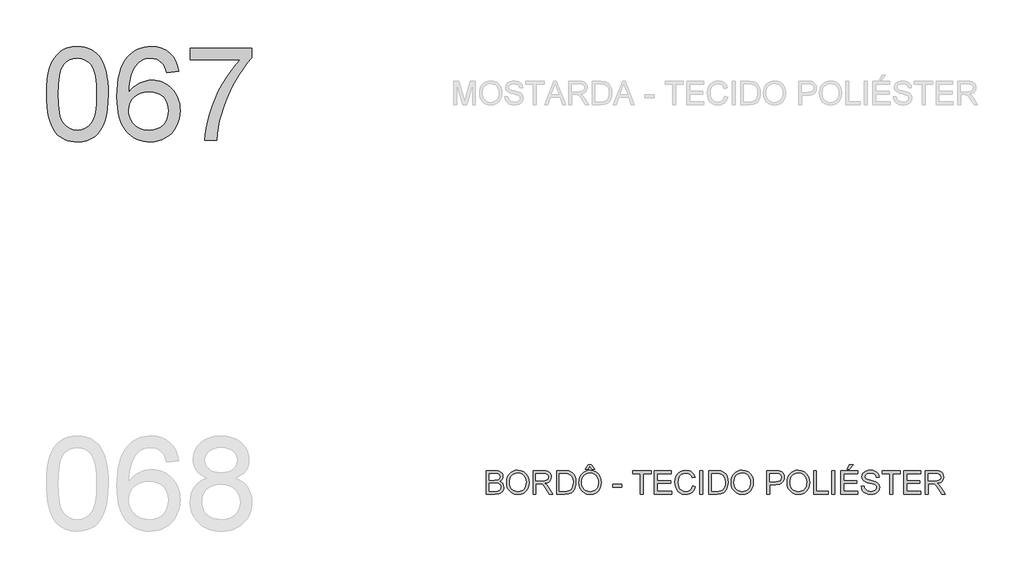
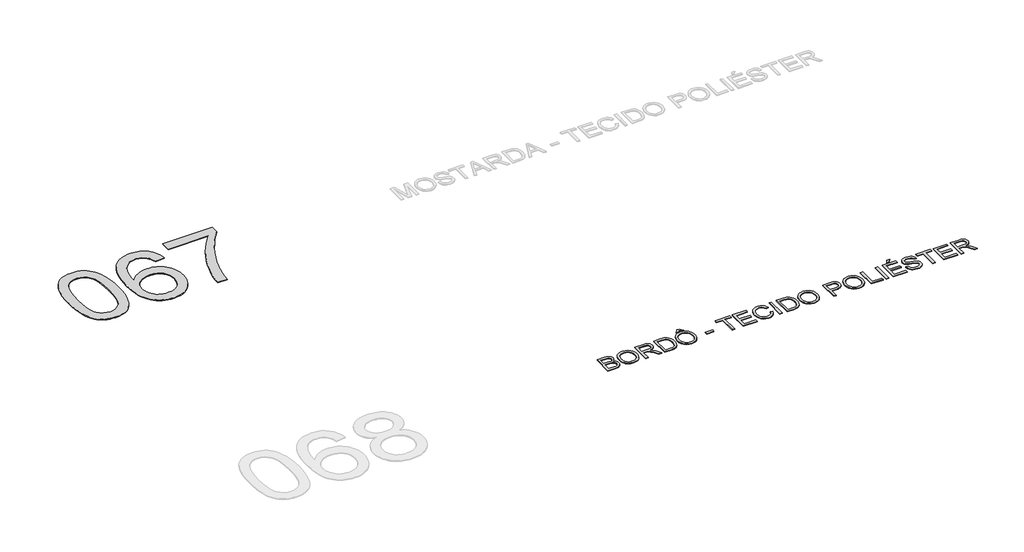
# One storey, part 7 of 67: 2 proxies.
"""IFC4 building model written with IfcOpenShell, lengths in millimetres."""

import ifcopenshell
import ifcopenshell.guid

model = None  # the IFC model being written
_history = None  # IfcOwnerHistory: only IFC2X3 demands one
_inside = {}  # id of a spatial element -> (the spatial element, [elements in it])
_under = {}  # id of a project, library or spatial element -> (it, [spatial elements below it])
_declared = {}  # id of a project -> (the project, [libraries it declares])
_typed = {}  # id of a type object -> (the type object, [elements of that type])
_made_of = {}  # id of a material, layer set ... -> (it, [elements and type objects made of it])


def new_model(schema):
    """Start an empty IFC model of exactly this schema.

    Asked for "IFC4X3", IfcOpenShell would pick the latest addendum, in which some entities
    have other attributes; the version numbers below select the first issue.
    IFC2X3 requires an IfcOwnerHistory on every rooted entity: one is made here for all.
    """
    global model, _history
    if schema == "IFC4X3":
        model = ifcopenshell.file(schema_version=(4, 3, 0, 0))
    else:
        model = ifcopenshell.file(schema=schema)
    _inside.clear()
    _under.clear()
    _declared.clear()
    _typed.clear()
    _made_of.clear()
    _history = None
    if model.schema == "IFC2X3":
        org = make("IfcOrganization", Name="unknown")
        user = make(
            "IfcPersonAndOrganization",
            ThePerson=make("IfcPerson", FamilyName="unknown"),
            TheOrganization=org,
        )
        app = make(
            "IfcApplication",
            ApplicationDeveloper=org,
            Version="unknown",
            ApplicationFullName="unknown",
            ApplicationIdentifier="unknown",
        )
        _history = make(
            "IfcOwnerHistory",
            OwningUser=user,
            OwningApplication=app,
            ChangeAction="ADDED",
            CreationDate=0,
        )
    return model


def make(cls, **values):
    """One entity of the class cls with the attributes given. An attribute that is None is left unset."""
    return model.create_entity(
        cls, **{name: value for name, value in values.items() if value is not None}
    )


def rooted(cls, **values):
    """An entity with a GlobalId (a new one), such as an element, a storey or a relation."""
    return make(cls, GlobalId=ifcopenshell.guid.new(), OwnerHistory=_history, **values)


def si_unit(unit_type, name, prefix=None):
    """IfcSIUnit, for example si_unit("LENGTHUNIT", "METRE", prefix="MILLI")."""
    return make("IfcSIUnit", UnitType=unit_type, Prefix=prefix, Name=name)


def assignment(units):
    """IfcUnitAssignment: the units of a project."""
    return None if units is None else make("IfcUnitAssignment", Units=units)


def point(xyz):
    """IfcCartesianPoint."""
    return None if xyz is None else make("IfcCartesianPoint", Coordinates=xyz)


def direction(xyz):
    """IfcDirection."""
    return None if xyz is None else make("IfcDirection", DirectionRatios=xyz)


def frame(location, z_axis=None, x_axis=None):
    """IfcAxis2Placement3D, a coordinate frame: its origin and axes. An axis left out is left unset."""
    return make(
        "IfcAxis2Placement3D",
        Location=point(location),
        Axis=direction(z_axis),
        RefDirection=direction(x_axis),
    )


def origin():
    """The frame at (0, 0, 0) with its axes left unset."""
    return frame((0.0, 0.0, 0.0))


def origin_with_axes():
    """The frame at (0, 0, 0) with the z axis (0, 0, 1) and the x axis (1, 0, 0) written out."""
    return frame((0.0, 0.0, 0.0), z_axis=(0.0, 0.0, 1.0), x_axis=(1.0, 0.0, 0.0))


def place(relative_to, where):
    """IfcLocalPlacement: puts the frame where relative to a parent placement (None: the world)."""
    return make(
        "IfcLocalPlacement", PlacementRelTo=relative_to, RelativePlacement=where
    )


def context(
    kind, dimensions, precision=None, world=None, true_north=None, identifier=None
):
    """IfcGeometricRepresentationContext, for example the 3D "Model" context."""
    return make(
        "IfcGeometricRepresentationContext",
        ContextIdentifier=identifier,
        ContextType=kind,
        CoordinateSpaceDimension=dimensions,
        Precision=precision,
        WorldCoordinateSystem=world,
        TrueNorth=true_north,
    )


def project(units=None, contexts=None):
    """IfcProject with its units and contexts."""
    return rooted(
        "IfcProject",
        Name="project",
        RepresentationContexts=contexts,
        UnitsInContext=assignment(units),
    )


def spatial(cls, under=None, at=None, **own):
    """A site, building, storey or space (cls), placed at a placement, below another one or the project."""
    s = rooted(cls, ObjectPlacement=at, **own)
    if under is not None:
        _under.setdefault(under.id(), (under, []))[1].append(s)
    return s


def polyline(points):
    """IfcPolyline through the points."""
    return make("IfcPolyline", Points=[point(p) for p in points])


def outline(outer, holes=None, kind="AREA"):
    """IfcArbitraryClosedProfileDef: a profile drawn as a closed curve; with holes, ...WithVoids."""
    if holes is None:
        return make("IfcArbitraryClosedProfileDef", ProfileType=kind, OuterCurve=outer)
    return make(
        "IfcArbitraryProfileDefWithVoids",
        ProfileType=kind,
        OuterCurve=outer,
        InnerCurves=holes,
    )


def extrude(swept, where, along, depth):
    """IfcExtrudedAreaSolid: the profile swept, set in the frame where, extruded along a direction by depth."""
    return make(
        "IfcExtrudedAreaSolid",
        SweptArea=swept,
        Position=where,
        ExtrudedDirection=direction(along),
        Depth=depth,
    )


def shape(context_of_items, identifier, shape_type, items):
    """IfcShapeRepresentation: the items that make up one representation, for example the "Body"."""
    return make(
        "IfcShapeRepresentation",
        ContextOfItems=context_of_items,
        RepresentationIdentifier=identifier,
        RepresentationType=shape_type,
        Items=items,
    )


def made_of(thing, what):
    """Note that an element or type object is made of a material, layer set ...; save() writes the relation."""
    if what is not None:
        _made_of.setdefault(what.id(), (what, []))[1].append(thing)
    return thing


def element(
    cls,
    number,
    at=None,
    inside=None,
    cuts=None,
    type_object=None,
    material=None,
    context=None,
    identifier="Body",
    shape_type=None,
    held_by="IfcProductDefinitionShape",
    body=None,
    shapes=None,
    **own,
):
    """One element of the class cls, such as IfcWall. Its Tag is "e" and its number.

    at: its placement. inside: the storey or other place that contains it. cuts: it is an
    opening in that element (IfcRelVoidsElement). A single representation is given by context,
    identifier, shape_type and body (its items); several are given by shapes. held_by: the class
    of the entity that holds the representations. save() writes the other relations.
    """
    e = rooted(cls, Tag="e%d" % number, ObjectPlacement=at, **own)
    if body is not None:
        shapes = [shape(context, identifier, shape_type, body)]
    if shapes is not None:
        e.Representation = make(held_by, Representations=shapes)
    if inside is not None:
        _inside.setdefault(inside.id(), (inside, []))[1].append(e)
    if cuts is not None:
        rooted(
            "IfcRelVoidsElement", RelatingBuildingElement=cuts, RelatedOpeningElement=e
        )
    if type_object is not None:
        _typed.setdefault(type_object.id(), (type_object, []))[1].append(e)
    return made_of(e, material)


def aggregate(whole, parts):
    """IfcRelAggregates: a whole, such as a stair, and the parts it consists of."""
    return rooted("IfcRelAggregates", RelatingObject=whole, RelatedObjects=parts)


def save(model, path):
    """Write the relations noted so far, then the file.

    IfcRelAggregates (storeys below a building ...), IfcRelContainedInSpatialStructure (elements
    in a storey), IfcRelDefinesByType, IfcRelAssociatesMaterial and IfcRelDeclares: one each for
    every whole, place, type object, material and project.
    """
    for whole, parts in _under.values():
        aggregate(whole, parts)
    for where, things in _inside.values():
        rooted(
            "IfcRelContainedInSpatialStructure",
            RelatedElements=things,
            RelatingStructure=where,
        )
    for kind, things in _typed.values():
        rooted("IfcRelDefinesByType", RelatedObjects=things, RelatingType=kind)
    for what, things in _made_of.values():
        rooted("IfcRelAssociatesMaterial", RelatedObjects=things, RelatingMaterial=what)
    for by, libraries in _declared.values():
        rooted("IfcRelDeclares", RelatingContext=by, RelatedDefinitions=libraries)
    model.write(path)


model = new_model("IFC4")

# Units and contexts
model_context = context("Model", 3, world=origin())
ifc_project = project(units=[si_unit("LENGTHUNIT", "METRE", prefix="MILLI")], contexts=[model_context])

# Site, building, storey
site = spatial("IfcSite", under=ifc_project)
building = spatial("IfcBuilding", under=site)
storey = spatial("IfcBuildingStorey", under=building, Name="Marelli - Linha COLAB - Planta Baixa", Elevation=0.0)

# Proxies
placement = place(None, origin())
element("IfcBuildingElementProxy", 1, Name="1200mm Arial", ObjectType="1200mm Arial", at=placement, inside=storey, context=model_context, shape_type="SweptSolid", body=[
    extrude(outline(polyline([(-25181.1313792, -89895.792664), (-25178.3630672, -89794.4319773), (-25170.0581311, -89702.8385576), (-25156.2165711, -89621.0124048), (-25136.838387, -89548.953519), (-25112.0063523, -89486.073289), (-25081.8032405, -89431.7831035), (-25046.2290516, -89386.0829627), (-25005.2837855, -89348.9728664), (-24958.8294866, -89320.2596767), (-24906.728199, -89299.7502555), (-24848.9799228, -89287.4446027), (-24785.584658, -89283.3427185), (-24737.9439396, -89285.7707396), (-24692.7312424, -89293.0548031), (-24649.9465664, -89305.194909), (-24609.5899115, -89322.1910572), (-24572.6361651, -89343.7581391), (-24540.0602144, -89369.6110463), (-24511.8620595, -89399.7497788), (-24488.0417003, -89434.1743365), (-24467.4035204, -89472.7467637), (-24448.7519032, -89515.3291046), (-24417.4083572, -89612.5235278), (-24405.4337983, -89669.6831928), (-24396.8805419, -89735.9479371), (-24391.7485881, -89811.3177609), (-24390.0379368, -89895.792664), (-24392.7786576, -89996.5095573), (-24401.0008202, -90087.6431245), (-24414.7044246, -90169.1933658), (-24433.8894706, -90241.1602811), (-24458.5283672, -90304.0681023), (-24488.5935233, -90358.4410612), (-24524.0849388, -90404.2791578), (-24565.0026137, -90441.5823921), (-24611.5120949, -90470.4887199), (-24663.7789294, -90491.1360968), (-24721.8031171, -90503.524523), (-24785.584658, -90507.6539984), (-24828.2589694, -90505.8605737), (-24868.5788361, -90500.4802995), (-24906.544258, -90491.5131759), (-24942.1552351, -90478.9592028), (-24975.4117675, -90462.8183803), (-25006.3138551, -90443.0907083), (-25034.8614979, -90419.7761868), (-25061.054696, -90392.8748159), (-25089.1976686, -90350.2786794), (-25113.5882449, -90302.0999336), (-25134.2264248, -90248.3385785), (-25151.1122084, -90188.9946142), (-25164.2455956, -90124.0680406), (-25173.6265865, -90053.5588577), (-25179.255181, -89977.4670655), (-25181.1313792, -89895.792664)]), holes=[polyline([(-25030.446914, -89895.4983584), (-25026.03233, -90026.4919399), (-25012.7885782, -90132.5247279), (-25002.8557643, -90176.1808245), (-24990.7156585, -90213.5967226), (-24976.3682607, -90244.7724225), (-24959.8135709, -90269.7079239), (-24922.4367602, -90307.884878), (-24880.9396711, -90335.1541309), (-24835.3223037, -90351.5156826), (-24785.584658, -90356.9695332), (-24735.8470122, -90351.4972885), (-24690.2296448, -90335.0805545), (-24648.7325558, -90307.7193311), (-24611.3557451, -90269.4136183), (-24594.8010553, -90244.418336), (-24580.4536575, -90213.2104465), (-24568.3135516, -90175.7899498), (-24558.3807378, -90132.1568459), (-24545.1369859, -90026.2528166), (-24540.722402, -89895.4983584), (-24544.9898331, -89767.9720648), (-24557.7921266, -89663.8062779), (-24567.3938467, -89620.4835744), (-24579.1292823, -89583.0009976), (-24592.9984335, -89551.3585475), (-24609.0013003, -89525.5562241), (-24645.7527116, -89485.5122689), (-24687.7280473, -89456.9094438), (-24734.9273073, -89439.7477487), (-24787.3504916, -89434.0271837), (-24836.8306199, -89439.067167), (-24881.6754351, -89454.187117), (-24921.8849372, -89479.3870337), (-24957.4591261, -89514.666917), (-24974.5656389, -89543.2145599), (-24989.3912833, -89577.2068562), (-25001.9360594, -89616.6438061), (-25012.199967, -89661.5254095), (-25025.8851772, -89767.6225769), (-25030.446914, -89895.4983584)])]), origin_with_axes(), (0.0, 0.0, 1.0), 10.0),
    extrude(outline(polyline([(-23485.9311454, -89603.5472071), (-23636.6156107, -89622.3827652), (-23647.6888587, -89582.0812927), (-23660.8958223, -89547.7027202), (-23676.2365015, -89519.2470479), (-23693.7108963, -89496.7142757), (-23726.102906, -89469.2886729), (-23762.063371, -89449.6989567), (-23801.5922914, -89437.9451269), (-23844.6896671, -89434.0271837), (-23880.2270679, -89436.3080521), (-23914.734399, -89443.1506572), (-23948.2116606, -89454.554999), (-23980.6588525, -89470.5210776), (-24010.2641561, -89496.6315022), (-24037.2758916, -89528.1681863), (-24061.694059, -89565.1311297), (-24083.5186584, -89607.5203326), (-24101.5908614, -89658.1316981), (-24114.7518398, -89719.7611293), (-24123.0015935, -89792.4086263), (-24126.3401226, -89876.0741891), (-24097.6177359, -89838.2099347), (-24065.8971108, -89805.5512106), (-24031.1782475, -89778.0980167), (-23993.461146, -89755.8503531), (-23953.7574816, -89738.6610669), (-23913.07893, -89726.3830053), (-23871.4254911, -89719.0161683), (-23828.7971649, -89716.560556), (-23791.8986008, -89718.2390176), (-23756.3979883, -89723.2744024), (-23722.2953273, -89731.6667104), (-23689.590618, -89743.4159416), (-23658.2838602, -89758.5220961), (-23628.375054, -89776.9851737), (-23599.8641993, -89798.8051745), (-23572.7512963, -89823.9820986), (-23547.9882395, -89851.81697), (-23526.5269236, -89881.6108131), (-23508.3673486, -89913.3636278), (-23493.5095145, -89947.0754142), (-23481.9534214, -89982.7461721), (-23473.6990691, -90020.3759017), (-23468.7464577, -90059.9646029), (-23467.0955873, -90101.5122757), (-23470.2041901, -90156.4462547), (-23479.5299987, -90209.4120649), (-23495.073013, -90260.4097065), (-23516.833233, -90309.4391794), (-23544.0381066, -90354.6702707), (-23575.9150814, -90394.2727675), (-23612.4641577, -90428.2466698), (-23653.6853352, -90456.5919775), (-23698.6956973, -90478.9316116), (-23746.6123272, -90494.8884932), (-23797.4352248, -90504.4626221), (-23851.1643902, -90507.6539984), (-23897.1657345, -90505.5386769), (-23940.9919764, -90499.1927125), (-23982.6431161, -90488.6161052), (-24022.1191534, -90473.8088549), (-24059.4200884, -90454.7709616), (-24094.5459212, -90431.5024254), (-24127.4966517, -90404.0032463), (-24158.2722798, -90372.2734242), (-24186.104852, -90335.6875598), (-24210.2264146, -90293.6202536), (-24230.6369675, -90246.0715057), (-24247.3365108, -90193.0413161), (-24260.3250445, -90134.5296848), (-24269.6025686, -90070.5366117), (-24275.169083, -90001.062097), (-24277.0245879, -89926.1061404), (-24274.9644487, -89842.1784618), (-24268.7840312, -89764.1828803), (-24258.4833353, -89692.1193959), (-24244.0623611, -89625.9880088), (-24225.5211085, -89565.7887188), (-24202.8595776, -89511.521526), (-24176.0777684, -89463.1864303), (-24145.1756808, -89420.7834319), (-24115.1611085, -89388.5707647), (-24082.6541357, -89360.6531198), (-24047.6547624, -89337.0304971), (-24010.1629886, -89317.7028968), (-23970.1788142, -89302.6703188), (-23927.7022393, -89291.9327631), (-23882.733264, -89285.4902296), (-23835.271888, -89283.3427185), (-23765.8709497, -89288.6586133), (-23703.055099, -89304.6062978), (-23646.824336, -89331.1857719), (-23597.1786608, -89368.3970358), (-23555.4608425, -89414.9892904), (-23523.0136505, -89469.7117372), (-23499.8370848, -89532.5643761), (-23485.9311454, -89603.5472071)]), holes=[polyline([(-24126.3401226, -90099.157831), (-24124.1604218, -90132.9202011), (-24117.6213193, -90165.9284131), (-24106.7228152, -90198.182467), (-24091.4649095, -90229.6823629), (-24072.5925631, -90258.9473756), (-24050.8507372, -90284.4967801), (-24026.2394317, -90306.3305766), (-23998.7586467, -90324.4487648), (-23968.5831261, -90338.676601), (-23935.8876137, -90348.8393411), (-23900.6721097, -90354.9369852), (-23862.9366141, -90356.9695332), (-23810.559415, -90352.7572843), (-23763.4981108, -90340.1205378), (-23721.7527014, -90319.0592936), (-23685.3231868, -90289.5735517), (-23655.7730656, -90252.8589286), (-23634.6658361, -90210.1110407), (-23622.0014984, -90161.3298882), (-23617.7800525, -90106.5154709), (-23621.9463161, -90053.8439662), (-23634.4451069, -90007.0769676), (-23655.2764249, -89966.214475), (-23684.44027, -89931.2564884), (-23720.9801492, -89903.2514715), (-23763.9395692, -89883.247888), (-23813.31853, -89871.2457379), (-23869.1170316, -89867.2450212), (-23920.7952549, -89871.2457379), (-23968.4083821, -89883.247888), (-24011.9564133, -89903.2514715), (-24051.4393484, -89931.2564884), (-24084.2084371, -89965.7546225), (-24107.6149291, -90005.2375576), (-24121.6588242, -90049.7052938), (-24126.3401226, -90099.157831)])]), origin_with_axes(), (0.0, 0.0, 1.0), 10.0),
    extrude(outline(polyline([(-23335.2466802, -89452.8627418), (-23335.2466802, -89302.1782766), (-22544.1532378, -89302.1782766), (-22544.1532378, -89424.0207934), (-22600.6691093, -89490.5246611), (-22656.9090693, -89566.7222194), (-22712.8731178, -89652.6134682), (-22768.5612548, -89748.1984076), (-22820.956848, -89849.3383651), (-22867.0432649, -89951.8946683), (-22906.8205057, -90055.8673172), (-22940.2885702, -90161.2563118), (-22960.2277743, -90237.7941609), (-22976.1938529, -90317.9004653), (-22988.186806, -90401.5752251), (-22996.2066334, -90488.8184403), (-23146.8910987, -90488.8184403), (-23142.154618, -90414.8189769), (-23130.5939263, -90333.4986619), (-23112.2090236, -90244.8574952), (-23086.9999099, -90148.8954767), (-23055.2608907, -90050.1651463), (-23017.2862718, -89953.2190435), (-22973.076053, -89858.0571684), (-22922.6302344, -89764.679521), (-22868.2204873, -89675.8268221), (-22812.1184831, -89594.2397926), (-22754.3242216, -89519.9184325), (-22694.837703, -89452.8627418), (-23335.2466802, -89452.8627418)])), origin_with_axes(), (0.0, 0.0, 1.0), 10.0),
])
element("IfcBuildingElementProxy", 2, Name="300mm Arial", ObjectType="300mm Arial", at=placement, inside=storey, context=model_context, shape_type="SweptSolid", body=[
    extrude(outline(polyline([(-19536.4338573, -95030.5663201), (-19536.4338573, -94729.1973896), (-19421.4339456, -94729.1973896), (-19389.8052911, -94731.4138786), (-19365.1112121, -94738.0633457), (-19346.1836835, -94749.3113377), (-19331.8546798, -94765.3234015), (-19322.8323738, -94784.1589597), (-19319.8249385, -94803.8774346), (-19322.3541272, -94822.0232141), (-19329.9416934, -94839.0837416), (-19342.6428193, -94854.0105535), (-19360.5126872, -94865.7551862), (-19339.1663344, -94876.9020107), (-19323.3933939, -94893.8613707), (-19313.6537181, -94915.5112261), (-19310.4071594, -94940.7295368), (-19312.6236485, -94961.7447958), (-19319.2731155, -94981.2333445), (-19329.1967323, -94997.8064284), (-19341.2356706, -95010.0752929), (-19355.9785416, -95018.9596431), (-19374.0139564, -95025.3791839), (-19422.3168624, -95030.5663201), (-19536.4338573, -95030.5663201)]), holes=[polyline([(-19498.762741, -94851.6285176), (-19429.9688079, -94851.6285176), (-19389.796094, -94848.3911561), (-19375.7338047, -94842.8085468), (-19365.6262469, -94834.4484284), (-19359.5286028, -94823.4395597), (-19357.4960548, -94809.9106994), (-19359.3906471, -94796.7773121), (-19365.0744239, -94785.3361821), (-19374.2898679, -94776.4058467), (-19386.7794616, -94770.8048433), (-19435.1927322, -94766.8685059), (-19498.762741, -94766.8685059), (-19498.762741, -94851.6285176)]), polyline([(-19498.762741, -94992.8952038), (-19421.507522, -94992.8952038), (-19393.5484904, -94991.4236758), (-19369.8936781, -94983.2199073), (-19354.2219051, -94966.4812765), (-19349.6141831, -94954.6538704), (-19348.0782757, -94941.0974188), (-19349.8808975, -94925.3520694), (-19355.2887629, -94911.814012), (-19364.7341331, -94901.2282076), (-19378.6492695, -94894.3396173), (-19398.3585474, -94890.5596298), (-19425.1863419, -94889.2996339), (-19498.762741, -94889.2996339), (-19498.762741, -94992.8952038)])]), origin_with_axes(), (0.0, 0.0, 1.0), 10.0),
    extrude(outline(polyline([(-19272.7360431, -94883.8549804), (-19270.2252485, -94848.5061192), (-19262.6928647, -94817.213157), (-19250.1388916, -94789.9760937), (-19232.5633293, -94766.7949295), (-19211.0192399, -94748.2858666), (-19186.5596858, -94735.0651074), (-19159.1846668, -94727.1326519), (-19128.894183, -94724.4885001), (-19089.3652626, -94729.454907), (-19053.9198324, -94744.3541278), (-19024.4892728, -94768.1376988), (-19003.0049643, -94799.7571563), (-18989.871577, -94837.68579), (-18985.4937813, -94880.3968896), (-18990.1015033, -94923.6782064), (-19003.9246693, -94962.140269), (-19026.1999241, -94993.8149087), (-19056.1639126, -95016.733957), (-19091.3058402, -95030.6398965), (-19129.1149122, -95035.2752096), (-19169.2508379, -95030.1524528), (-19204.8986032, -95014.7841825), (-19234.2555864, -94990.5591531), (-19255.5191658, -94958.8661192), (-19268.4318238, -94922.3998164), (-19272.7360431, -94883.8549804)]), holes=[polyline([(-19235.0649268, -94884.2228624), (-19233.1818309, -94909.1974513), (-19227.532543, -94931.3669401), (-19218.1170632, -94950.7313286), (-19204.9353914, -94967.2906169), (-19188.9118313, -94980.5527628), (-19170.9706862, -94990.0257242), (-19151.1119563, -94995.709501), (-19129.3356414, -94997.6040933), (-19107.186846, -94995.6911069), (-19087.0935913, -94989.9521478), (-19069.0558772, -94980.3872159), (-19053.0737038, -94966.9963113), (-19039.9886011, -94950.0875351), (-19030.6420992, -94929.9689885), (-19025.034198, -94906.6406715), (-19023.1648976, -94880.102584), (-19026.365471, -94846.7540812), (-19035.967191, -94817.9305269), (-19051.7217375, -94794.358488), (-19073.38079, -94776.7645316), (-19099.5096087, -94765.8108452), (-19128.6734538, -94762.1596164), (-19149.6933113, -94763.9185522), (-19169.1956556, -94769.1953595), (-19187.1804866, -94777.9900385), (-19203.6478044, -94790.302589), (-19217.3927955, -94806.7262208), (-19227.2106462, -94827.8541437), (-19233.1013567, -94853.6863575), (-19235.0649268, -94884.2228624)])]), origin_with_axes(), (0.0, 0.0, 1.0), 10.0),
    extrude(outline(polyline([(-18933.6959964, -95030.5663201), (-18933.6959964, -94729.1973896), (-18803.8336521, -94729.1973896), (-18768.9308478, -94731.2299376), (-18743.5377931, -94737.3275817), (-18724.9781464, -94748.5847708), (-18710.5755663, -94766.0959537), (-18701.3325312, -94787.8101885), (-18698.2515195, -94811.6765329), (-18703.3558822, -94841.3646099), (-18718.6689702, -94865.9759154), (-18730.2687494, -94876.0052983), (-18744.6506361, -94884.0205273), (-18781.7607324, -94894.0085235), (-18760.3500003, -94910.1217548), (-18729.8157947, -94948.8965171), (-18679.5631141, -95030.5663201), (-18723.3410715, -95030.5663201), (-18762.5572922, -94968.0999573), (-18790.8842059, -94926.750021), (-18810.7866218, -94907.2154871), (-18828.702475, -94900.0417882), (-18850.5546655, -94898.717413), (-18896.0248801, -94898.717413), (-18896.0248801, -95030.5663201), (-18933.6959964, -95030.5663201)]), holes=[polyline([(-18896.0248801, -94861.0462967), (-18811.7063268, -94861.0462967), (-18787.4904944, -94859.7127245), (-18768.7009215, -94855.7120078), (-18754.5558588, -94848.7774322), (-18744.2735571, -94838.6422832), (-18738.0103661, -94826.3826157), (-18735.9226358, -94813.0744845), (-18739.9049584, -94794.6987789), (-18751.8519262, -94779.8915286), (-18772.4073326, -94770.1242616), (-18802.2149713, -94766.8685059), (-18896.0248801, -94766.8685059), (-18896.0248801, -94861.0462967)])]), origin_with_axes(), (0.0, 0.0, 1.0), 10.0),
    extrude(outline(polyline([(-18632.3270659, -95030.5663201), (-18632.3270659, -94729.1973896), (-18528.3636141, -94729.1973896), (-18474.5792664, -94733.5383972), (-18450.5565721, -94741.9077126), (-18430.2862742, -94755.0962821), (-18409.4457592, -94778.0521186), (-18394.6017206, -94806.5997614), (-18385.7173705, -94840.1873876), (-18382.7559204, -94878.2631741), (-18384.7608773, -94910.6091985), (-18390.7757479, -94939.0740679), (-18399.9360096, -94963.3082943), (-18411.3771396, -94982.9623899), (-18424.5473151, -94998.477813), (-18438.8947129, -95010.2960221), (-18455.3666292, -95019.0608107), (-18474.9103602, -95025.4159721), (-18523.360419, -95030.5663201), (-18632.3270659, -95030.5663201)]), holes=[polyline([(-18594.6559496, -94992.8952038), (-18527.9957321, -94992.8952038), (-18500.4229766, -94991.5340404), (-18479.5088851, -94987.4505502), (-18463.7267475, -94980.8838566), (-18451.5498535, -94972.0730828), (-18438.4624515, -94955.7667134), (-18428.6308052, -94934.6594839), (-18422.4779788, -94908.6594239), (-18420.4270367, -94877.6745629), (-18424.4461475, -94836.6189322), (-18436.5034799, -94806.3054558), (-18454.3181655, -94785.4833349), (-18475.609336, -94772.9017706), (-18497.2775855, -94768.3768221), (-18529.0258017, -94766.8685059), (-18594.6559496, -94766.8685059), (-18594.6559496, -94992.8952038)])]), origin_with_axes(), (0.0, 0.0, 1.0), 10.0),
    extrude(outline(polyline([(-18345.0848041, -94883.8549804), (-18342.5740095, -94848.5061192), (-18335.0416256, -94817.213157), (-18322.4876525, -94789.9760937), (-18304.9120902, -94766.7949295), (-18283.3680009, -94748.2858666), (-18258.9084467, -94735.0651074), (-18231.5334278, -94727.1326519), (-18201.242944, -94724.4885001), (-18161.7140236, -94729.454907), (-18126.2685934, -94744.3541278), (-18096.8380338, -94768.1376988), (-18075.3537252, -94799.7571563), (-18062.220338, -94837.68579), (-18057.8425423, -94880.3968896), (-18062.4502643, -94923.6782064), (-18076.2734302, -94962.140269), (-18098.548685, -94993.8149087), (-18128.5126735, -95016.733957), (-18163.6546011, -95030.6398965), (-18201.4636732, -95035.2752096), (-18241.5995989, -95030.1524528), (-18277.2473642, -95014.7841825), (-18306.6043474, -94990.5591531), (-18327.8679267, -94958.8661192), (-18340.7805848, -94922.3998164), (-18345.0848041, -94883.8549804)]), holes=[polyline([(-18307.4136878, -94884.2228624), (-18305.5305918, -94909.1974513), (-18299.8813039, -94931.3669401), (-18290.4658241, -94950.7313286), (-18277.2841524, -94967.2906169), (-18261.2605922, -94980.5527628), (-18243.3194472, -94990.0257242), (-18223.4607172, -94995.709501), (-18201.6844024, -94997.6040933), (-18179.535607, -94995.6911069), (-18159.4423523, -94989.9521478), (-18141.4046382, -94980.3872159), (-18125.4224648, -94966.9963113), (-18112.3373621, -94950.0875351), (-18102.9908601, -94929.9689885), (-18097.382959, -94906.6406715), (-18095.5136586, -94880.102584), (-18098.7142319, -94846.7540812), (-18108.315952, -94817.9305269), (-18124.0704984, -94794.358488), (-18145.7295509, -94776.7645316), (-18171.8583696, -94765.8108452), (-18201.0222148, -94762.1596164), (-18222.0420723, -94763.9185522), (-18241.5444166, -94769.1953595), (-18259.5292476, -94777.9900385), (-18275.9965654, -94790.302589), (-18289.7415564, -94806.7262208), (-18299.5594072, -94827.8541437), (-18305.4501176, -94853.6863575), (-18307.4136878, -94884.2228624)])]), origin_with_axes(), (0.0, 0.0, 1.0), 10.0),
    extrude(outline(polyline([(-18203.818118, -94672.6907152), (-18225.0081209, -94710.3618315), (-18262.6792372, -94710.3618315), (-18222.6536761, -94653.855157), (-18184.9825598, -94653.855157), (-18140.2481092, -94710.3618315), (-18177.9192255, -94710.3618315), (-18203.818118, -94672.6907152)])), origin_with_axes(), (0.0, 0.0, 1.0), 10.0),
    extrude(outline(polyline([(-17911.8669666, -94941.0974188), (-17911.8669666, -94903.4263025), (-17794.1447281, -94903.4263025), (-17794.1447281, -94941.0974188), (-17911.8669666, -94941.0974188)])), origin_with_axes(), (0.0, 0.0, 1.0), 10.0),
    extrude(outline(polyline([(-17553.9913617, -95030.5663201), (-17553.9913617, -94766.8685059), (-17652.878042, -94766.8685059), (-17652.878042, -94729.1973896), (-17417.4335651, -94729.1973896), (-17417.4335651, -94766.8685059), (-17516.3202454, -94766.8685059), (-17516.3202454, -95030.5663201), (-17553.9913617, -95030.5663201)])), origin_with_axes(), (0.0, 0.0, 1.0), 10.0),
    extrude(outline(polyline([(-17375.0535592, -95030.5663201), (-17375.0535592, -94729.1973896), (-17158.4446405, -94729.1973896), (-17158.4446405, -94766.8685059), (-17337.3824429, -94766.8685059), (-17337.3824429, -94856.3374072), (-17167.8624195, -94856.3374072), (-17167.8624195, -94894.0085235), (-17337.3824429, -94894.0085235), (-17337.3824429, -94992.8952038), (-17153.7357509, -94992.8952038), (-17153.7357509, -95030.5663201), (-17375.0535592, -95030.5663201)])), origin_with_axes(), (0.0, 0.0, 1.0), 10.0),
    extrude(outline(polyline([(-16885.3290472, -94923.4390831), (-16847.6579309, -94933.1511677), (-16855.1121399, -94956.5783531), (-16865.0403552, -94977.0486868), (-16877.442577, -94994.5621691), (-16892.3188051, -95009.1187997), (-16909.3333474, -95020.5622291), (-16928.1505115, -95028.7361071), (-16948.7702973, -95033.640434), (-16971.1927049, -95035.2752096), (-17014.8878889, -95030.3271968), (-17049.5883581, -95015.4831583), (-17076.1862263, -94991.2581289), (-17095.5736075, -94958.1671434), (-17107.4102107, -94919.2636224), (-17111.3557451, -94877.6009865), (-17106.8951759, -94833.6574821), (-17093.5134683, -94795.7104543), (-17071.9095981, -94764.9647166), (-17042.7825412, -94742.6250824), (-17008.2384218, -94729.0226457), (-16970.3833645, -94724.4885001), (-16929.0794135, -94730.3562179), (-16911.1106773, -94737.6908652), (-16894.9307673, -94747.9593714), (-16880.806398, -94760.8904235), (-16869.0042837, -94776.2127086), (-16852.3668205, -94814.0309777), (-16890.0379368, -94823.0072984), (-16903.0977476, -94795.5357104), (-16920.9400244, -94776.6909552), (-16943.7854963, -94765.7924511), (-16971.8548925, -94762.1596164), (-17004.210114, -94766.1879242), (-17030.7895881, -94778.2728478), (-17050.9587185, -94797.1451941), (-17064.0829087, -94821.5357704), (-17071.2841987, -94849.1085259), (-17073.6846288, -94877.5274101), (-17070.8427404, -94912.3290468), (-17062.3170751, -94942.421794), (-17047.7857363, -94966.6560205), (-17026.9268272, -94983.8820949), (-17001.9200486, -94994.1735937), (-16974.9451013, -94997.6040933), (-16943.5003877, -94992.931992), (-16917.2979926, -94978.9156879), (-16897.5151383, -94955.702334), (-16885.3290472, -94923.4390831)])), origin_with_axes(), (0.0, 0.0, 1.0), 10.0),
    extrude(outline(polyline([(-16791.1512565, -95030.5663201), (-16791.1512565, -94729.1973896), (-16753.4801402, -94729.1973896), (-16753.4801402, -95030.5663201), (-16791.1512565, -95030.5663201)])), origin_with_axes(), (0.0, 0.0, 1.0), 10.0),
    extrude(outline(polyline([(-16678.1379076, -95030.5663201), (-16678.1379076, -94729.1973896), (-16574.1744557, -94729.1973896), (-16520.390108, -94733.5383972), (-16496.3674137, -94741.9077126), (-16476.0971158, -94755.0962821), (-16455.2566008, -94778.0521186), (-16440.4125623, -94806.5997614), (-16431.5282121, -94840.1873876), (-16428.566762, -94878.2631741), (-16430.5717189, -94910.6091985), (-16436.5865895, -94939.0740679), (-16445.7468512, -94963.3082943), (-16457.1879813, -94982.9623899), (-16470.3581567, -94998.477813), (-16484.7055545, -95010.2960221), (-16501.1774708, -95019.0608107), (-16520.7212018, -95025.4159721), (-16569.1712606, -95030.5663201), (-16678.1379076, -95030.5663201)]), holes=[polyline([(-16640.4667912, -94992.8952038), (-16573.8065737, -94992.8952038), (-16546.2338182, -94991.5340404), (-16525.3197268, -94987.4505502), (-16509.5375892, -94980.8838566), (-16497.3606951, -94972.0730828), (-16484.2732931, -94955.7667134), (-16474.4416468, -94934.6594839), (-16468.2888205, -94908.6594239), (-16466.2378783, -94877.6745629), (-16470.2569891, -94836.6189322), (-16482.3143215, -94806.3054558), (-16500.1290071, -94785.4833349), (-16521.4201776, -94772.9017706), (-16543.0884271, -94768.3768221), (-16574.8366433, -94766.8685059), (-16640.4667912, -94766.8685059), (-16640.4667912, -94992.8952038)])]), origin_with_axes(), (0.0, 0.0, 1.0), 10.0),
    extrude(outline(polyline([(-16390.8956457, -94883.8549804), (-16388.3848511, -94848.5061192), (-16380.8524673, -94817.213157), (-16368.2984942, -94789.9760937), (-16350.7229318, -94766.7949295), (-16329.1788425, -94748.2858666), (-16304.7192883, -94735.0651074), (-16277.3442694, -94727.1326519), (-16247.0537856, -94724.4885001), (-16207.5248652, -94729.454907), (-16172.079435, -94744.3541278), (-16142.6488754, -94768.1376988), (-16121.1645669, -94799.7571563), (-16108.0311796, -94837.68579), (-16103.6533839, -94880.3968896), (-16108.2611059, -94923.6782064), (-16122.0842718, -94962.140269), (-16144.3595267, -94993.8149087), (-16174.3235152, -95016.733957), (-16209.4654427, -95030.6398965), (-16247.2745148, -95035.2752096), (-16287.4104405, -95030.1524528), (-16323.0582058, -95014.7841825), (-16352.415189, -94990.5591531), (-16373.6787683, -94958.8661192), (-16386.5914264, -94922.3998164), (-16390.8956457, -94883.8549804)]), holes=[polyline([(-16353.2245294, -94884.2228624), (-16351.3414335, -94909.1974513), (-16345.6921456, -94931.3669401), (-16336.2766657, -94950.7313286), (-16323.094994, -94967.2906169), (-16307.0714339, -94980.5527628), (-16289.1302888, -94990.0257242), (-16269.2715589, -94995.709501), (-16247.495244, -94997.6040933), (-16225.3464486, -94995.6911069), (-16205.2531939, -94989.9521478), (-16187.2154798, -94980.3872159), (-16171.2333064, -94966.9963113), (-16158.1482037, -94950.0875351), (-16148.8017017, -94929.9689885), (-16143.1938006, -94906.6406715), (-16141.3245002, -94880.102584), (-16144.5250736, -94846.7540812), (-16154.1267936, -94817.9305269), (-16169.8813401, -94794.358488), (-16191.5403925, -94776.7645316), (-16217.6692112, -94765.8108452), (-16246.8330564, -94762.1596164), (-16267.8529139, -94763.9185522), (-16287.3552582, -94769.1953595), (-16305.3400892, -94777.9900385), (-16321.807407, -94790.302589), (-16335.5523981, -94806.7262208), (-16345.3702488, -94827.8541437), (-16351.2609593, -94853.6863575), (-16353.2245294, -94884.2228624)])]), origin_with_axes(), (0.0, 0.0, 1.0), 10.0),
    extrude(outline(polyline([(-15934.1333605, -95030.5663201), (-15934.1333605, -94729.1973896), (-15822.4443868, -94729.1973896), (-15777.4156306, -94732.0668692), (-15757.3384707, -94737.4287493), (-15740.811372, -94746.1567496), (-15727.5032409, -94758.6463433), (-15717.0829834, -94775.2930036), (-15710.3507428, -94794.9287051), (-15708.1066627, -94816.3854225), (-15709.6218766, -94834.8852883), (-15714.1675185, -94851.9044291), (-15721.7435884, -94867.4428449), (-15732.3500862, -94881.5005356), (-15746.9113154, -94893.1531978), (-15766.3515796, -94901.476528), (-15790.6708787, -94906.470526), (-15819.8692128, -94908.1351921), (-15896.4622442, -94908.1351921), (-15896.4622442, -95030.5663201), (-15934.1333605, -95030.5663201)]), holes=[polyline([(-15896.4622442, -94870.4640758), (-15817.6619208, -94870.4640758), (-15784.2582357, -94867.005985), (-15762.185316, -94856.6317127), (-15749.8796632, -94839.9850525), (-15745.777779, -94817.7097977), (-15748.1966031, -94800.7872259), (-15755.4530755, -94786.5134045), (-15766.6458852, -94775.7712502), (-15780.8737213, -94769.4436799), (-15818.5448376, -94766.8685059), (-15896.4622442, -94766.8685059), (-15896.4622442, -94870.4640758)])]), origin_with_axes(), (0.0, 0.0, 1.0), 10.0),
    extrude(outline(polyline([(-15670.4355464, -94883.8549804), (-15667.9247517, -94848.5061192), (-15660.3923679, -94817.213157), (-15647.8383948, -94789.9760937), (-15630.2628325, -94766.7949295), (-15608.7187431, -94748.2858666), (-15584.259189, -94735.0651074), (-15556.88417, -94727.1326519), (-15526.5936863, -94724.4885001), (-15487.0647659, -94729.454907), (-15451.6193356, -94744.3541278), (-15422.188776, -94768.1376988), (-15400.7044675, -94799.7571563), (-15387.5710803, -94837.68579), (-15383.1932845, -94880.3968896), (-15387.8010065, -94923.6782064), (-15401.6241725, -94962.140269), (-15423.8994273, -94993.8149087), (-15453.8634158, -95016.733957), (-15489.0053434, -95030.6398965), (-15526.8144154, -95035.2752096), (-15566.9503411, -95030.1524528), (-15602.5981065, -95014.7841825), (-15631.9550897, -94990.5591531), (-15653.218669, -94958.8661192), (-15666.131327, -94922.3998164), (-15670.4355464, -94883.8549804)]), holes=[polyline([(-15632.7644301, -94884.2228624), (-15630.8813341, -94909.1974513), (-15625.2320462, -94931.3669401), (-15615.8165664, -94950.7313286), (-15602.6348947, -94967.2906169), (-15586.6113345, -94980.5527628), (-15568.6701894, -94990.0257242), (-15548.8114595, -94995.709501), (-15527.0351446, -94997.6040933), (-15504.8863493, -94995.6911069), (-15484.7930945, -94989.9521478), (-15466.7553805, -94980.3872159), (-15450.773207, -94966.9963113), (-15437.6881043, -94950.0875351), (-15428.3416024, -94929.9689885), (-15422.7337012, -94906.6406715), (-15420.8644008, -94880.102584), (-15424.0649742, -94846.7540812), (-15433.6666943, -94817.9305269), (-15449.4212407, -94794.358488), (-15471.0802932, -94776.7645316), (-15497.2091119, -94765.8108452), (-15526.3729571, -94762.1596164), (-15547.3928146, -94763.9185522), (-15566.8951588, -94769.1953595), (-15584.8799899, -94777.9900385), (-15601.3473077, -94790.302589), (-15615.0922987, -94806.7262208), (-15624.9101495, -94827.8541437), (-15630.8008599, -94853.6863575), (-15632.7644301, -94884.2228624)])]), origin_with_axes(), (0.0, 0.0, 1.0), 10.0),
    extrude(outline(polyline([(-15331.3954996, -95030.5663201), (-15331.3954996, -94729.1973896), (-15293.7243833, -94729.1973896), (-15293.7243833, -94992.8952038), (-15143.0399181, -94992.8952038), (-15143.0399181, -95030.5663201), (-15331.3954996, -95030.5663201)])), origin_with_axes(), (0.0, 0.0, 1.0), 10.0),
    extrude(outline(polyline([(-15095.9510227, -95030.5663201), (-15095.9510227, -94729.1973896), (-15058.2799064, -94729.1973896), (-15058.2799064, -95030.5663201), (-15095.9510227, -95030.5663201)])), origin_with_axes(), (0.0, 0.0, 1.0), 10.0),
    extrude(outline(polyline([(-14982.9376738, -95030.5663201), (-14982.9376738, -94729.1973896), (-14766.328755, -94729.1973896), (-14766.328755, -94766.8685059), (-14945.2665575, -94766.8685059), (-14945.2665575, -94856.3374072), (-14775.7465341, -94856.3374072), (-14775.7465341, -94894.0085235), (-14945.2665575, -94894.0085235), (-14945.2665575, -94992.8952038), (-14761.6198655, -94992.8952038), (-14761.6198655, -95030.5663201), (-14982.9376738, -95030.5663201)])), origin_with_axes(), (0.0, 0.0, 1.0), 10.0),
    extrude(outline(polyline([(-14898.1776621, -94710.3618315), (-14869.9243249, -94653.855157), (-14822.8354295, -94653.855157), (-14869.9243249, -94710.3618315), (-14898.1776621, -94710.3618315)])), origin_with_axes(), (0.0, 0.0, 1.0), 10.0),
    extrude(outline(polyline([(-14719.2398596, -94926.9707502), (-14681.5687433, -94926.9707502), (-14677.2461299, -94947.8756446), (-14669.4286375, -94964.6786547), (-14657.2333493, -94978.0143771), (-14639.7773487, -94988.517408), (-14618.440193, -94995.332422), (-14594.6014397, -94997.6040933), (-14573.6137718, -94995.884245), (-14555.2380662, -94990.7247), (-14540.3480424, -94982.5577197), (-14529.8174203, -94971.8155654), (-14523.5542294, -94959.4823216), (-14521.466499, -94946.5420724), (-14523.0299975, -94933.932917), (-14527.7204929, -94923.0344129), (-14537.2486366, -94913.7361954), (-14553.3250798, -94905.9279001), (-14608.1762853, -94891.5437141), (-14644.1827356, -94882.0247675), (-14667.2213455, -94872.9656733), (-14685.9741302, -94860.2921386), (-14699.2638673, -94844.9330653), (-14707.1825272, -94827.2195472), (-14709.8220806, -94807.4826782), (-14706.5571279, -94785.4189555), (-14696.7622697, -94764.845155), (-14680.6950236, -94747.4075484), (-14658.6129068, -94734.7524077), (-14632.1070091, -94727.054477), (-14602.76842, -94724.4885001), (-14570.9834156, -94727.1740386), (-14543.1715367, -94735.2306543), (-14520.3260648, -94748.4928003), (-14503.4402813, -94766.7949295), (-14492.7533093, -94788.9966079), (-14488.5042723, -94813.9574013), (-14526.1753886, -94813.9574013), (-14533.0915701, -94791.4798114), (-14547.5125443, -94775.2562154), (-14570.0453165, -94765.4337661), (-14601.296892, -94762.1596164), (-14633.2842315, -94765.3969779), (-14655.2283925, -94775.1090626), (-14667.9203213, -94789.4012781), (-14672.1509643, -94806.3790322), (-14669.152726, -94820.8551887), (-14660.1580112, -94832.4986539), (-14638.8944319, -94842.9097143), (-14598.6481416, -94853.541504), (-14557.1142644, -94863.6398648), (-14531.9879241, -94872.4506385), (-14510.5128126, -94886.1174547), (-14495.5308184, -94902.9848441), (-14486.7292416, -94922.868866), (-14483.7953827, -94945.5855792), (-14487.1707, -94968.8081301), (-14497.2966519, -94990.6511236), (-14513.7593712, -95009.4498935), (-14536.1449906, -95023.539774), (-14563.0647556, -95032.3413507), (-14593.1299117, -95035.2752096), (-14630.0376729, -95032.1114244), (-14660.4155286, -95022.620069), (-14684.6129668, -95006.764355), (-14702.9794754, -94984.5074943), (-14714.7700934, -94957.3945912), (-14719.2398596, -94926.9707502)])), origin_with_axes(), (0.0, 0.0, 1.0), 10.0),
    extrude(outline(polyline([(-14351.9464757, -95030.5663201), (-14351.9464757, -94766.8685059), (-14450.833156, -94766.8685059), (-14450.833156, -94729.1973896), (-14215.388679, -94729.1973896), (-14215.388679, -94766.8685059), (-14314.2753593, -94766.8685059), (-14314.2753593, -95030.5663201), (-14351.9464757, -95030.5663201)])), origin_with_axes(), (0.0, 0.0, 1.0), 10.0),
    extrude(outline(polyline([(-14173.0086732, -95030.5663201), (-14173.0086732, -94729.1973896), (-13956.3997544, -94729.1973896), (-13956.3997544, -94766.8685059), (-14135.3375569, -94766.8685059), (-14135.3375569, -94856.3374072), (-13965.8175335, -94856.3374072), (-13965.8175335, -94894.0085235), (-14135.3375569, -94894.0085235), (-14135.3375569, -94992.8952038), (-13951.6908649, -94992.8952038), (-13951.6908649, -95030.5663201), (-14173.0086732, -95030.5663201)])), origin_with_axes(), (0.0, 0.0, 1.0), 10.0),
    extrude(outline(polyline([(-13895.1841904, -95030.5663201), (-13895.1841904, -94729.1973896), (-13765.3218461, -94729.1973896), (-13730.4190419, -94731.2299376), (-13705.0259871, -94737.3275817), (-13686.4663405, -94748.5847708), (-13672.0637604, -94766.0959537), (-13662.8207252, -94787.8101885), (-13659.7397135, -94811.6765329), (-13664.8440762, -94841.3646099), (-13680.1571643, -94865.9759154), (-13691.7569434, -94876.0052983), (-13706.1388302, -94884.0205273), (-13743.2489264, -94894.0085235), (-13721.8381943, -94910.1217548), (-13691.3039887, -94948.8965171), (-13641.0513082, -95030.5663201), (-13684.8292656, -95030.5663201), (-13724.0454863, -94968.0999573), (-13752.3723999, -94926.750021), (-13772.2748159, -94907.2154871), (-13790.190669, -94900.0417882), (-13812.0428595, -94898.717413), (-13857.5130741, -94898.717413), (-13857.5130741, -95030.5663201), (-13895.1841904, -95030.5663201)]), holes=[polyline([(-13857.5130741, -94861.0462967), (-13773.1945208, -94861.0462967), (-13748.9786885, -94859.7127245), (-13730.1891156, -94855.7120078), (-13716.0440529, -94848.7774322), (-13705.7617511, -94838.6422832), (-13699.4985602, -94826.3826157), (-13697.4108298, -94813.0744845), (-13701.3931524, -94794.6987789), (-13713.3401202, -94779.8915286), (-13733.8955267, -94770.1242616), (-13763.7031654, -94766.8685059), (-13857.5130741, -94766.8685059), (-13857.5130741, -94861.0462967)])]), origin_with_axes(), (0.0, 0.0, 1.0), 10.0),
])

save(model, "model.ifc")
